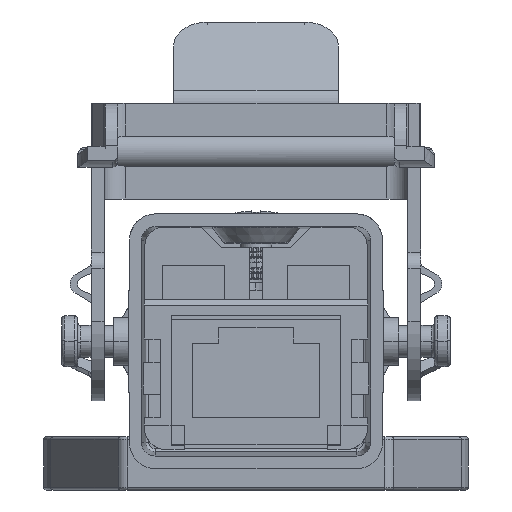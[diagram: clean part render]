
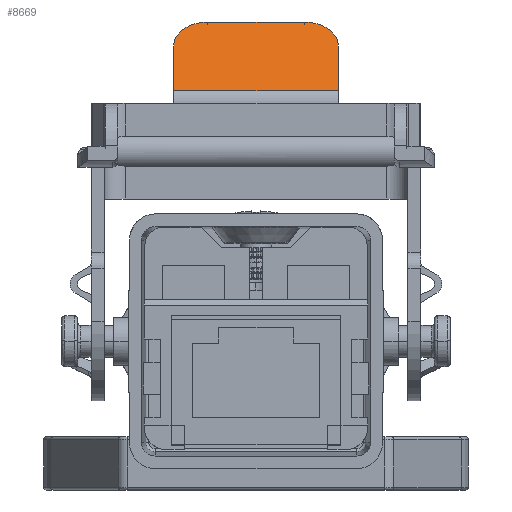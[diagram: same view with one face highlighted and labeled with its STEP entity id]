
A CAD part, front view. The second image highlights one B-rep face of the part: STEP entity #8669.
In plain terms, the highlighted planar face has unit normal (0, -0.707, 0.707).
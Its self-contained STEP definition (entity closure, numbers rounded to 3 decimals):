
#290 = VECTOR ( 'NONE', #29670, 1000. ) ;
#2968 = DIRECTION ( 'NONE',  ( 0., -0.707, 0.707 ) ) ;
#4864 = CARTESIAN_POINT ( 'NONE',  ( -4.55, 23.669, 30.066 ) ) ;
#6796 = DIRECTION ( 'NONE',  ( -1., 0., 0. ) ) ;
#8669 = ADVANCED_FACE ( 'NONE', ( #11098 ), #37624, .T. ) ;
#8769 = ORIENTED_EDGE ( 'NONE', *, *, #34577, .F. ) ;
#11098 = FACE_OUTER_BOUND ( 'NONE', #18868, .T. ) ;
#13785 = EDGE_CURVE ( 'NONE', #52927, #38358, #47560, .T. ) ;
#17305 = EDGE_CURVE ( 'NONE', #46484, #46525, #49147, .T. ) ;
#17860 = CARTESIAN_POINT ( 'NONE',  ( -4.55, 23.669, 30.066 ) ) ;
#18613 = VECTOR ( 'NONE', #48714, 1000. ) ;
#18868 = EDGE_LOOP ( 'NONE', ( #8769, #29660, #29808, #38763, #42743, #26755 ) ) ;
#20533 = DIRECTION ( 'NONE',  ( 1., 0., 0. ) ) ;
#22090 = AXIS2_PLACEMENT_3D ( 'NONE', #29275, #33890, #6796 ) ;
#22399 = VERTEX_POINT ( 'NONE', #4864 ) ;
#22513 = EDGE_CURVE ( 'NONE', #37844, #38358, #28738, .T. ) ;
#25478 = DIRECTION ( 'NONE',  ( 0., 0.707, 0.707 ) ) ;
#26755 = ORIENTED_EDGE ( 'NONE', *, *, #13785, .F. ) ;
#27400 = LINE ( 'NONE', #17860, #18613 ) ;
#27430 = CIRCLE ( 'NONE', #34775, 3.2 ) ;
#27963 = AXIS2_PLACEMENT_3D ( 'NONE', #42429, #2968, #20533 ) ;
#28738 = LINE ( 'NONE', #33055, #32760 ) ;
#29275 = CARTESIAN_POINT ( 'NONE',  ( -15.5, 23.669, 30.066 ) ) ;
#29660 = ORIENTED_EDGE ( 'NONE', *, *, #17305, .T. ) ;
#29670 = DIRECTION ( 'NONE',  ( 0., -0.707, -0.707 ) ) ;
#29808 = ORIENTED_EDGE ( 'NONE', *, *, #33341, .F. ) ;
#30081 = CARTESIAN_POINT ( 'NONE',  ( -4.55, 21.406, 27.803 ) ) ;
#30743 = CARTESIAN_POINT ( 'NONE',  ( -7.75, 17.198, 23.595 ) ) ;
#32134 = CARTESIAN_POINT ( 'NONE',  ( 7.75, 17.198, 23.595 ) ) ;
#32760 = VECTOR ( 'NONE', #46011, 1000. ) ;
#33055 = CARTESIAN_POINT ( 'NONE',  ( -7.75, 21.406, 27.803 ) ) ;
#33341 = EDGE_CURVE ( 'NONE', #22399, #46525, #27400, .T. ) ;
#33890 = DIRECTION ( 'NONE',  ( 0., -0.707, 0.707 ) ) ;
#34329 = CARTESIAN_POINT ( 'NONE',  ( 7.75, 17.198, 23.595 ) ) ;
#34577 = EDGE_CURVE ( 'NONE', #46484, #52927, #39164, .T. ) ;
#34684 = DIRECTION ( 'NONE',  ( 0., -0.707, 0.707 ) ) ;
#34775 = AXIS2_PLACEMENT_3D ( 'NONE', #30081, #34684, #25478 ) ;
#35487 = CARTESIAN_POINT ( 'NONE',  ( 7.75, 21.406, 27.803 ) ) ;
#37624 = PLANE ( 'NONE',  #22090 ) ;
#37844 = VERTEX_POINT ( 'NONE', #46546 ) ;
#38358 = VERTEX_POINT ( 'NONE', #30743 ) ;
#38763 = ORIENTED_EDGE ( 'NONE', *, *, #49326, .T. ) ;
#39164 = LINE ( 'NONE', #43193, #290 ) ;
#42392 = DIRECTION ( 'NONE',  ( -1., 0., 0. ) ) ;
#42429 = CARTESIAN_POINT ( 'NONE',  ( 4.55, 21.406, 27.803 ) ) ;
#42743 = ORIENTED_EDGE ( 'NONE', *, *, #22513, .T. ) ;
#43193 = CARTESIAN_POINT ( 'NONE',  ( 7.75, 21.406, 27.803 ) ) ;
#46011 = DIRECTION ( 'NONE',  ( 0., -0.707, -0.707 ) ) ;
#46484 = VERTEX_POINT ( 'NONE', #35487 ) ;
#46525 = VERTEX_POINT ( 'NONE', #55507 ) ;
#46546 = CARTESIAN_POINT ( 'NONE',  ( -7.75, 21.406, 27.803 ) ) ;
#47560 = LINE ( 'NONE', #34329, #55632 ) ;
#48714 = DIRECTION ( 'NONE',  ( 1., 0., 0. ) ) ;
#49147 = CIRCLE ( 'NONE', #27963, 3.2 ) ;
#49326 = EDGE_CURVE ( 'NONE', #22399, #37844, #27430, .T. ) ;
#52927 = VERTEX_POINT ( 'NONE', #32134 ) ;
#55507 = CARTESIAN_POINT ( 'NONE',  ( 4.55, 23.669, 30.066 ) ) ;
#55632 = VECTOR ( 'NONE', #42392, 1000. ) ;
